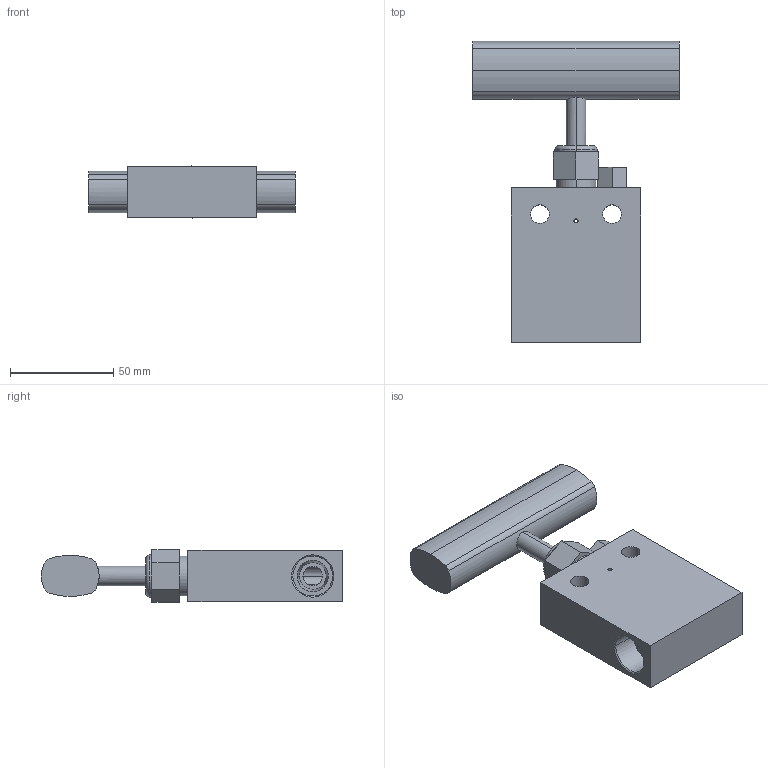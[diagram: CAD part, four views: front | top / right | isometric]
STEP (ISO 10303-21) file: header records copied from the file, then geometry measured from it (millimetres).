
FILE_DESCRIPTION (( 'STEP AP203' ), '1' );
FILE_NAME ('NV10VS08-S-00-00.STEP', '2023-02-23T04:48:56', ( 'USER' ), ( '' ), 'SwSTEP 2.0', 'SolidWorks 2020', '' );
FILE_SCHEMA (( 'CONFIG_CONTROL_DESIGN' ));
Length unit declared in the file: millimetre
Products named in the file (1): NV10VS08-S-00-00
Bounding box: 100 x 146.06 x 25.4 mm (x, y, z)
Volume: 160061.6 mm3; surface area: 32956.3 mm2
Topology: 1 solids, 1 shells, 88 faces, 215 edges, 138 vertices
Faces by surface type: cylinder 41, plane 33, cone 12, torus 2
Entity records: 3028 total; most frequent: CARTESIAN_POINT 796, DIRECTION 469, ORIENTED_EDGE 430, EDGE_CURVE 215, AXIS2_PLACEMENT_3D 179, VERTEX_POINT 138, LINE 111, VECTOR 111
